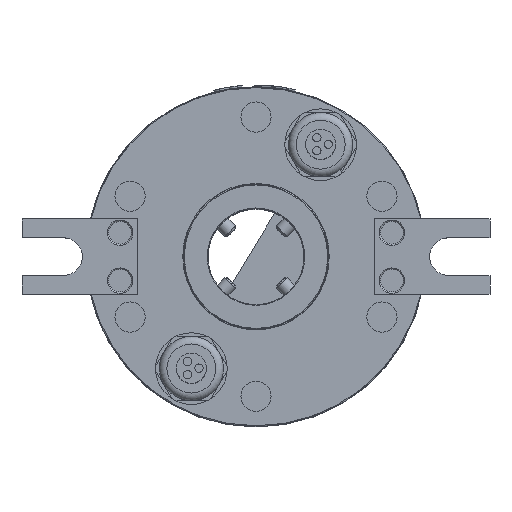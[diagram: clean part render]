
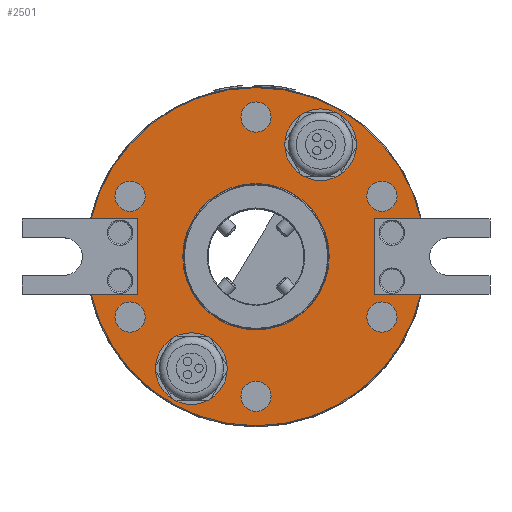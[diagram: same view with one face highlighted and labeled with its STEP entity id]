
A CAD part, top view. The second image highlights one B-rep face of the part: STEP entity #2501.
In plain terms, the highlighted planar face has unit normal (0, 0, 1).
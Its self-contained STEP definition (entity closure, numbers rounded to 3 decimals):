
#378=FACE_BOUND('',#5843,.T.);
#379=FACE_BOUND('',#5844,.T.);
#380=FACE_BOUND('',#5845,.T.);
#381=FACE_BOUND('',#5846,.T.);
#382=FACE_BOUND('',#5847,.T.);
#383=FACE_BOUND('',#5848,.T.);
#384=FACE_BOUND('',#5849,.T.);
#385=FACE_BOUND('',#5850,.T.);
#386=FACE_BOUND('',#5851,.T.);
#387=FACE_BOUND('',#5852,.T.);
#765=CIRCLE('',#18549,19.4);
#766=CIRCLE('',#18551,4.);
#767=CIRCLE('',#18553,4.);
#768=CIRCLE('',#18555,4.);
#769=CIRCLE('',#18557,4.);
#770=CIRCLE('',#18559,4.);
#771=CIRCLE('',#18561,4.);
#772=CIRCLE('',#18563,9.5);
#773=CIRCLE('',#18565,9.5);
#776=CIRCLE('',#18577,44.8);
#777=CIRCLE('',#18578,44.8);
#1269=PLANE('',#18579);
#1655=LINE('',#34675,#3889);
#1659=LINE('',#34683,#3893);
#1661=LINE('',#34687,#3895);
#1663=LINE('',#34691,#3897);
#1676=LINE('',#34746,#3910);
#1677=LINE('',#34748,#3911);
#2501=ADVANCED_FACE('',(#378,#379,#380,#381,#382,#383,#384,#385,#386,#387),
#1269,.T.);
#3889=VECTOR('',#20815,1.);
#3893=VECTOR('',#20821,1.);
#3895=VECTOR('',#20825,1.);
#3897=VECTOR('',#20829,1.);
#3910=VECTOR('',#20892,1.);
#3911=VECTOR('',#20895,1.);
#5843=EDGE_LOOP('',(#9710));
#5844=EDGE_LOOP('',(#9711));
#5845=EDGE_LOOP('',(#9712));
#5846=EDGE_LOOP('',(#9713));
#5847=EDGE_LOOP('',(#9714));
#5848=EDGE_LOOP('',(#9715));
#5849=EDGE_LOOP('',(#9716));
#5850=EDGE_LOOP('',(#9717));
#5851=EDGE_LOOP('',(#9718));
#5852=EDGE_LOOP('',(#9719,#9720,#9721,#9722,#9723,#9724,#9725,#9726));
#9710=ORIENTED_EDGE('',*,*,#15109,.F.);
#9711=ORIENTED_EDGE('',*,*,#15108,.F.);
#9712=ORIENTED_EDGE('',*,*,#15107,.F.);
#9713=ORIENTED_EDGE('',*,*,#15106,.F.);
#9714=ORIENTED_EDGE('',*,*,#15105,.F.);
#9715=ORIENTED_EDGE('',*,*,#15104,.F.);
#9716=ORIENTED_EDGE('',*,*,#15103,.F.);
#9717=ORIENTED_EDGE('',*,*,#15102,.F.);
#9718=ORIENTED_EDGE('',*,*,#15101,.F.);
#9719=ORIENTED_EDGE('',*,*,#15099,.F.);
#9720=ORIENTED_EDGE('',*,*,#15097,.F.);
#9721=ORIENTED_EDGE('',*,*,#15095,.F.);
#9722=ORIENTED_EDGE('',*,*,#15126,.T.);
#9723=ORIENTED_EDGE('',*,*,#15123,.F.);
#9724=ORIENTED_EDGE('',*,*,#15091,.F.);
#9725=ORIENTED_EDGE('',*,*,#15122,.F.);
#9726=ORIENTED_EDGE('',*,*,#15127,.T.);
#12697=VERTEX_POINT('',#34676);
#12698=VERTEX_POINT('',#34677);
#12699=VERTEX_POINT('',#34682);
#12700=VERTEX_POINT('',#34684);
#12701=VERTEX_POINT('',#34688);
#12702=VERTEX_POINT('',#34692);
#12703=VERTEX_POINT('',#34696);
#12704=VERTEX_POINT('',#34699);
#12705=VERTEX_POINT('',#34702);
#12706=VERTEX_POINT('',#34705);
#12707=VERTEX_POINT('',#34708);
#12708=VERTEX_POINT('',#34711);
#12709=VERTEX_POINT('',#34714);
#12710=VERTEX_POINT('',#34717);
#12711=VERTEX_POINT('',#34720);
#12718=VERTEX_POINT('',#34745);
#12719=VERTEX_POINT('',#34749);
#15091=EDGE_CURVE('',#12697,#12698,#1655,.T.);
#15095=EDGE_CURVE('',#12699,#12700,#1659,.T.);
#15097=EDGE_CURVE('',#12700,#12701,#1661,.T.);
#15099=EDGE_CURVE('',#12701,#12702,#1663,.T.);
#15101=EDGE_CURVE('',#12703,#12703,#765,.T.);
#15102=EDGE_CURVE('',#12704,#12704,#766,.T.);
#15103=EDGE_CURVE('',#12705,#12705,#767,.T.);
#15104=EDGE_CURVE('',#12706,#12706,#768,.T.);
#15105=EDGE_CURVE('',#12707,#12707,#769,.T.);
#15106=EDGE_CURVE('',#12708,#12708,#770,.T.);
#15107=EDGE_CURVE('',#12709,#12709,#771,.T.);
#15108=EDGE_CURVE('',#12710,#12710,#772,.T.);
#15109=EDGE_CURVE('',#12711,#12711,#773,.T.);
#15122=EDGE_CURVE('',#12718,#12697,#1676,.T.);
#15123=EDGE_CURVE('',#12698,#12719,#1677,.T.);
#15126=EDGE_CURVE('',#12699,#12719,#776,.T.);
#15127=EDGE_CURVE('',#12718,#12702,#777,.T.);
#18549=AXIS2_PLACEMENT_3D('',#34695,#20833,#20834);
#18551=AXIS2_PLACEMENT_3D('',#34698,#20837,#20838);
#18553=AXIS2_PLACEMENT_3D('',#34701,#20841,#20842);
#18555=AXIS2_PLACEMENT_3D('',#34704,#20845,#20846);
#18557=AXIS2_PLACEMENT_3D('',#34707,#20849,#20850);
#18559=AXIS2_PLACEMENT_3D('',#34710,#20853,#20854);
#18561=AXIS2_PLACEMENT_3D('',#34713,#20857,#20858);
#18563=AXIS2_PLACEMENT_3D('',#34716,#20861,#20862);
#18565=AXIS2_PLACEMENT_3D('',#34719,#20865,#20866);
#18577=AXIS2_PLACEMENT_3D('',#34754,#20903,#20904);
#18578=AXIS2_PLACEMENT_3D('',#34755,#20905,#20906);
#18579=AXIS2_PLACEMENT_3D('',#34756,#20907,#20908);
#20815=DIRECTION('',(0.,1.,0.));
#20821=DIRECTION('',(-1.,0.,0.));
#20825=DIRECTION('',(0.,-1.,0.));
#20829=DIRECTION('',(1.,0.,0.));
#20833=DIRECTION('',(0.,0.,1.));
#20834=DIRECTION('',(0.,1.,0.));
#20837=DIRECTION('',(0.,0.,1.));
#20838=DIRECTION('',(0.,1.,0.));
#20841=DIRECTION('',(0.,0.,1.));
#20842=DIRECTION('',(0.,1.,0.));
#20845=DIRECTION('',(0.,0.,1.));
#20846=DIRECTION('',(0.,1.,0.));
#20849=DIRECTION('',(0.,0.,1.));
#20850=DIRECTION('',(0.,1.,0.));
#20853=DIRECTION('',(0.,0.,1.));
#20854=DIRECTION('',(0.,1.,0.));
#20857=DIRECTION('',(0.,0.,1.));
#20858=DIRECTION('',(0.,1.,0.));
#20861=DIRECTION('',(0.,0.,1.));
#20862=DIRECTION('',(0.,1.,0.));
#20865=DIRECTION('',(0.,0.,1.));
#20866=DIRECTION('',(-0.866,0.5,0.));
#20892=DIRECTION('',(1.,0.,0.));
#20895=DIRECTION('',(-1.,0.,0.));
#20903=DIRECTION('',(0.,0.,1.));
#20904=DIRECTION('',(1.,0.,0.));
#20905=DIRECTION('',(0.,0.,1.));
#20906=DIRECTION('',(1.,0.,0.));
#20907=DIRECTION('',(0.,0.,1.));
#20908=DIRECTION('',(0.,-1.,0.));
#34675=CARTESIAN_POINT('',(-31.5,-10.,82.));
#34676=CARTESIAN_POINT('',(-31.5,-10.,82.));
#34677=CARTESIAN_POINT('',(-31.5,10.,82.));
#34682=CARTESIAN_POINT('',(43.67,10.,82.));
#34683=CARTESIAN_POINT('',(62.,10.,82.));
#34684=CARTESIAN_POINT('',(31.5,10.,82.));
#34687=CARTESIAN_POINT('',(31.5,10.,82.));
#34688=CARTESIAN_POINT('',(31.5,-10.,82.));
#34691=CARTESIAN_POINT('',(31.5,-10.,82.));
#34692=CARTESIAN_POINT('',(43.67,-10.,82.));
#34695=CARTESIAN_POINT('',(0.,0.,82.));
#34696=CARTESIAN_POINT('',(0.,19.4,82.));
#34698=CARTESIAN_POINT('',(33.362,16.,82.));
#34699=CARTESIAN_POINT('',(33.362,20.,82.));
#34701=CARTESIAN_POINT('',(33.362,-16.,82.));
#34702=CARTESIAN_POINT('',(33.362,-12.,82.));
#34704=CARTESIAN_POINT('',(0.,37.,82.));
#34705=CARTESIAN_POINT('',(0.,41.,82.));
#34707=CARTESIAN_POINT('',(0.,-37.,82.));
#34708=CARTESIAN_POINT('',(0.,-33.,82.));
#34710=CARTESIAN_POINT('',(-33.362,16.,82.));
#34711=CARTESIAN_POINT('',(-33.362,20.,82.));
#34713=CARTESIAN_POINT('',(-33.362,-16.,82.));
#34714=CARTESIAN_POINT('',(-33.362,-12.,82.));
#34716=CARTESIAN_POINT('',(17.125,29.661,82.));
#34717=CARTESIAN_POINT('',(17.125,39.161,82.));
#34719=CARTESIAN_POINT('',(-17.125,-29.661,82.));
#34720=CARTESIAN_POINT('',(-25.352,-24.911,82.));
#34745=CARTESIAN_POINT('',(-43.67,-10.,82.));
#34746=CARTESIAN_POINT('',(-62.,-10.,82.));
#34748=CARTESIAN_POINT('',(-31.5,10.,82.));
#34749=CARTESIAN_POINT('',(-43.67,10.,82.));
#34754=CARTESIAN_POINT('',(0.,0.,82.));
#34755=CARTESIAN_POINT('',(0.,0.,82.));
#34756=CARTESIAN_POINT('',(-45.,0.,82.));
